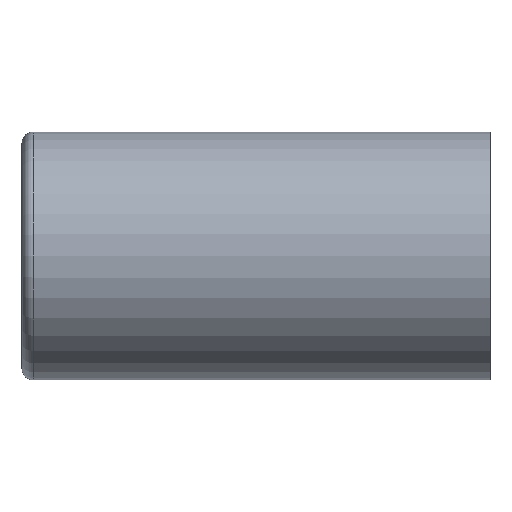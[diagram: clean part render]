
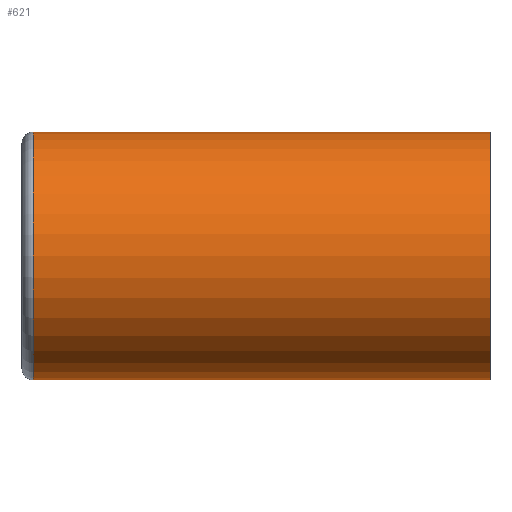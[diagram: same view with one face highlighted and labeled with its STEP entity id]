
A CAD part, left-side view. The second image highlights one B-rep face of the part: STEP entity #621.
In plain terms, the highlighted cylindrical face has radius 14.287 mm (diameter 28.575 mm), a partial arc.
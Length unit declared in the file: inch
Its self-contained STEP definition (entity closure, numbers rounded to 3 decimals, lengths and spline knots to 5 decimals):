
#176 = DIRECTION ( 'NONE',  ( 0., 0., 1. ) ) ;
#177 = DIRECTION ( 'NONE',  ( 0., -1., 0. ) ) ;
#178 = CARTESIAN_POINT ( 'NONE',  ( 0., 2.075, 0. ) ) ;
#179 = AXIS2_PLACEMENT_3D ( 'NONE', #178, #177, #176 ) ;
#180 = CIRCLE ( 'NONE', #179, 0.5625 ) ;
#213 = DIRECTION ( 'NONE',  ( 0., 0., -1. ) ) ;
#214 = DIRECTION ( 'NONE',  ( 0., -1., 0. ) ) ;
#215 = AXIS2_PLACEMENT_3D ( 'NONE', #217, #214, #213 ) ;
#217 = CARTESIAN_POINT ( 'NONE',  ( 0., 2.125, 0. ) ) ;
#218 = CYLINDRICAL_SURFACE ( 'NONE', #215, 0.5625 ) ;
#222 = FACE_OUTER_BOUND ( 'NONE', #622, .T. ) ;
#257 = CARTESIAN_POINT ( 'NONE',  ( 0., 2.075, -0.5625 ) ) ;
#287 = CARTESIAN_POINT ( 'NONE',  ( 0., 0., -0.5625 ) ) ;
#326 = DIRECTION ( 'NONE',  ( 0., -1., 0. ) ) ;
#327 = VECTOR ( 'NONE', #326, 39.37008 ) ;
#328 = CARTESIAN_POINT ( 'NONE',  ( 0., 2.125, 0.5625 ) ) ;
#329 = LINE ( 'NONE', #328, #327 ) ;
#335 = DIRECTION ( 'NONE',  ( 0., 0., 1. ) ) ;
#336 = DIRECTION ( 'NONE',  ( 0., 1., 0. ) ) ;
#337 = CARTESIAN_POINT ( 'NONE',  ( 0., 0., 0. ) ) ;
#338 = AXIS2_PLACEMENT_3D ( 'NONE', #337, #336, #335 ) ;
#339 = CIRCLE ( 'NONE', #338, 0.5625 ) ;
#488 = EDGE_CURVE ( 'NONE', #545, #660, #914, .T. ) ;
#495 = VERTEX_POINT ( 'NONE', #934 ) ;
#507 = ORIENTED_EDGE ( 'NONE', *, *, #643, .F. ) ;
#511 = VERTEX_POINT ( 'NONE', #913 ) ;
#515 = ORIENTED_EDGE ( 'NONE', *, *, #516, .T. ) ;
#516 = EDGE_CURVE ( 'NONE', #495, #545, #180, .T. ) ;
#517 = ORIENTED_EDGE ( 'NONE', *, *, #488, .T. ) ;
#545 = VERTEX_POINT ( 'NONE', #257 ) ;
#563 = ORIENTED_EDGE ( 'NONE', *, *, #639, .T. ) ;
#621 = ADVANCED_FACE ( 'NONE', ( #222 ), #218, .T. ) ;
#622 = EDGE_LOOP ( 'NONE', ( #507, #515, #517, #563 ) ) ;
#639 = EDGE_CURVE ( 'NONE', #660, #511, #339, .T. ) ;
#643 = EDGE_CURVE ( 'NONE', #495, #511, #329, .T. ) ;
#660 = VERTEX_POINT ( 'NONE', #287 ) ;
#901 = DIRECTION ( 'NONE',  ( 0., -1., 0. ) ) ;
#902 = VECTOR ( 'NONE', #901, 39.37008 ) ;
#903 = CARTESIAN_POINT ( 'NONE',  ( 0., 2.125, -0.5625 ) ) ;
#913 = CARTESIAN_POINT ( 'NONE',  ( 0., 0., 0.5625 ) ) ;
#914 = LINE ( 'NONE', #903, #902 ) ;
#934 = CARTESIAN_POINT ( 'NONE',  ( 0., 2.075, 0.5625 ) ) ;
